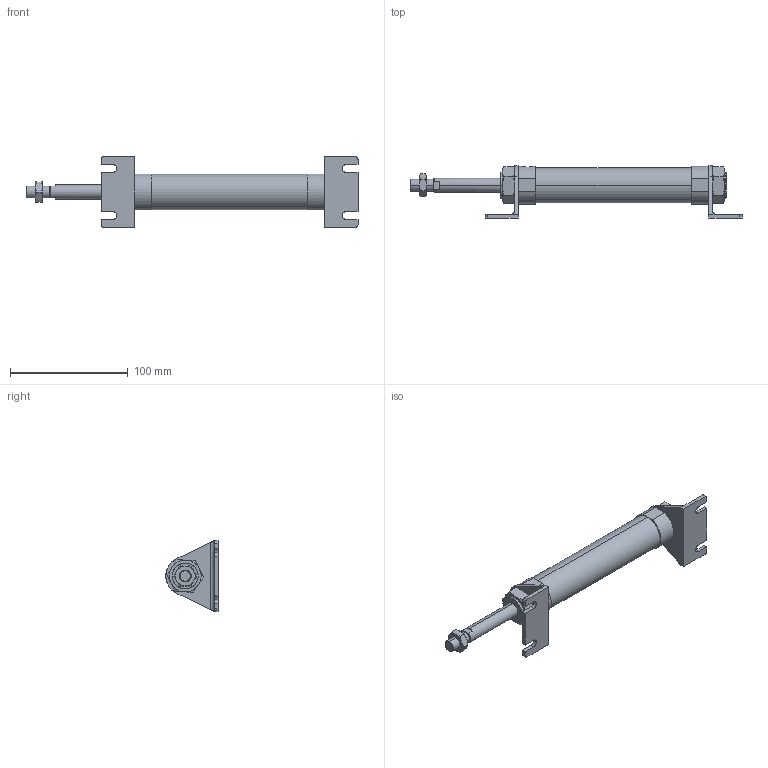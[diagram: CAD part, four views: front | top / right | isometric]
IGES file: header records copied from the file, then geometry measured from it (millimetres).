
Start section: SolidWorks IGES file using analytic representation for surfaces
Global section: file name: C:\Users\Toshiba\Desktop\J#0-25-50-L.IGS; native system: SolidWorks 2014; preprocessor: SolidWorks 2014; author: Toshiba; date: 160310.084418; units: millimetre
Bounding box: 282.2 x 44.5 x 60 mm (x, y, z)
Surface area: 40778.3 mm2 (no closed solid volume)
Topology: 0 solids, 0 shells, 167 faces, 2718 edges, 2716 vertices
Faces by surface type: bspline 111, revolution 56
